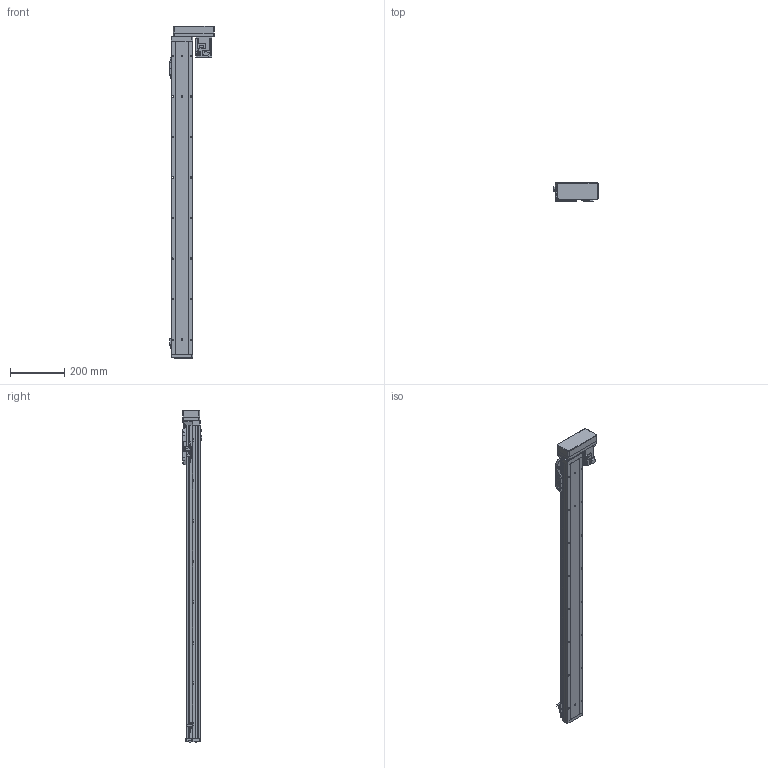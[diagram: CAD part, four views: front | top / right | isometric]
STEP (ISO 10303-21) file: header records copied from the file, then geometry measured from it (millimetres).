
FILE_DESCRIPTION (( 'STEP AP214' ), '1' );
FILE_NAME ('GSH8-1000-BL-M20-1.step', '2025-01-07T06:04:54', ( '' ), ( '' ), 'SwSTEP 2.0', 'SolidWorks 2012', '' );
FILE_SCHEMA (( 'AUTOMOTIVE_DESIGN' ));
Length unit declared in the file: millimetre
Products named in the file (5): HG-KR23_200W_Motor; GSH8-1000-BL-M20-1; GSH8-BL-011-1000-M20; GSH8-GY-004; GSH8-BL-008
Assembly tree (4 placements, depth 2):
  GSH8-1000-BL-M20-1
    GSH8-BL-011-1000-M20
    GSH8-GY-004
    GSH8-BL-008
    HG-KR23_200W_Motor
Bounding box: 163 x 71.3 x 1228.2 mm (x, y, z)
Volume: 2684059.7 mm3; surface area: 708525.5 mm2
Topology: 4 solids, 8 shells, 1163 faces, 3062 edges, 1972 vertices
Faces by surface type: plane 654, cylinder 413, torus 42, cone 26, bspline 24, sphere 4
Entity records: 45344 total; most frequent: CARTESIAN_POINT 10146, DIRECTION 6218, ORIENTED_EDGE 6108, EDGE_CURVE 3054, AXIS2_PLACEMENT_3D 2096, LINE 2026, VECTOR 2026, VERTEX_POINT 1968
